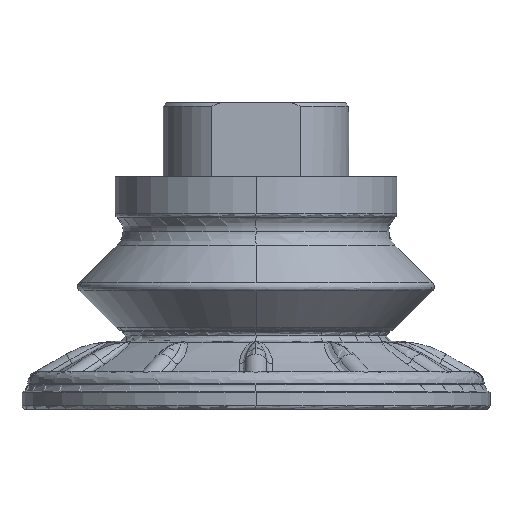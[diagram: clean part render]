
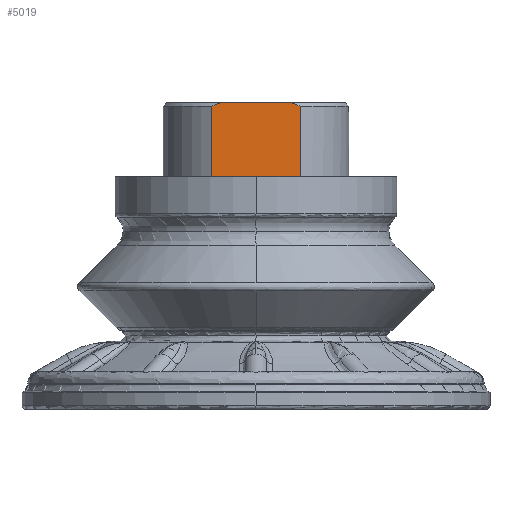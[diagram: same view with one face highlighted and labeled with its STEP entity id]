
A CAD part, front view. The second image highlights one B-rep face of the part: STEP entity #5019.
In plain terms, the highlighted planar face has unit normal (0, -1, 0).
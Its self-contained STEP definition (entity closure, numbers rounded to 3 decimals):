
#277 = EDGE_CURVE ( 'NONE', #3210, #6760, #403, .T. ) ;
#313 = CARTESIAN_POINT ( 'NONE',  ( 4.796, -11., 28. ) ) ;
#315 = CARTESIAN_POINT ( 'NONE',  ( 4.796, -11., 28. ) ) ;
#403 = B_SPLINE_CURVE_WITH_KNOTS ( 'NONE', 3,
 ( #3489, #2475, #5576, #2948 ),
 .UNSPECIFIED., .F., .F.,
 ( 4, 4 ),
 ( 0., 1. ),
 .UNSPECIFIED. ) ;
#1554 = CARTESIAN_POINT ( 'NONE',  ( 5.937, -11., 18. ) ) ;
#1611 = CARTESIAN_POINT ( 'NONE',  ( -5.937, -11., 27.5 ) ) ;
#1785 = CARTESIAN_POINT ( 'NONE',  ( -1.979, -11., 18. ) ) ;
#1999 = CARTESIAN_POINT ( 'NONE',  ( -5.937, -11., 18. ) ) ;
#2198 = CARTESIAN_POINT ( 'NONE',  ( -4.796, -11., 28. ) ) ;
#2475 = CARTESIAN_POINT ( 'NONE',  ( 5.937, -11., 21.167 ) ) ;
#2520 = ORIENTED_EDGE ( 'NONE', *, *, #5186, .T. ) ;
#2557 = CARTESIAN_POINT ( 'NONE',  ( 5.549, -11., 27.684 ) ) ;
#2948 = CARTESIAN_POINT ( 'NONE',  ( 5.937, -11., 27.5 ) ) ;
#3197 = CARTESIAN_POINT ( 'NONE',  ( 5.937, -11., 18. ) ) ;
#3210 = VERTEX_POINT ( 'NONE', #1554 ) ;
#3331 = AXIS2_PLACEMENT_3D ( 'NONE', #3749, #10903, #3480 ) ;
#3480 = DIRECTION ( 'NONE',  ( 0., 0., -1. ) ) ;
#3489 = CARTESIAN_POINT ( 'NONE',  ( 5.937, -11., 18. ) ) ;
#3540 = B_SPLINE_CURVE_WITH_KNOTS ( 'NONE', 3,
 ( #5804, #13083, #3855, #9041 ),
 .UNSPECIFIED., .F., .F.,
 ( 4, 4 ),
 ( 0., 1. ),
 .UNSPECIFIED. ) ;
#3749 = CARTESIAN_POINT ( 'NONE',  ( 0., -11., 23. ) ) ;
#3855 = CARTESIAN_POINT ( 'NONE',  ( 1.599, -11., 28. ) ) ;
#3887 = CARTESIAN_POINT ( 'NONE',  ( -4.796, -11., 28. ) ) ;
#4247 = EDGE_CURVE ( 'NONE', #5142, #6845, #7120, .T. ) ;
#4890 = VERTEX_POINT ( 'NONE', #1999 ) ;
#4963 = CARTESIAN_POINT ( 'NONE',  ( -5.937, -11., 24.333 ) ) ;
#5019 = ADVANCED_FACE ( 'NONE', ( #6726 ), #12709, .T. ) ;
#5142 = VERTEX_POINT ( 'NONE', #3887 ) ;
#5186 = EDGE_CURVE ( 'NONE', #4890, #3210, #10725, .T. ) ;
#5326 = CARTESIAN_POINT ( 'NONE',  ( 5.937, -11., 27.5 ) ) ;
#5576 = CARTESIAN_POINT ( 'NONE',  ( 5.937, -11., 24.333 ) ) ;
#5804 = CARTESIAN_POINT ( 'NONE',  ( -4.796, -11., 28. ) ) ;
#5918 = EDGE_CURVE ( 'NONE', #4890, #6845, #8455, .T. ) ;
#5975 = CARTESIAN_POINT ( 'NONE',  ( -5.937, -11., 21.167 ) ) ;
#6222 = VERTEX_POINT ( 'NONE', #315 ) ;
#6325 = CARTESIAN_POINT ( 'NONE',  ( -5.169, -11., 27.851 ) ) ;
#6687 = ORIENTED_EDGE ( 'NONE', *, *, #11368, .F. ) ;
#6726 = FACE_OUTER_BOUND ( 'NONE', #12087, .T. ) ;
#6760 = VERTEX_POINT ( 'NONE', #5326 ) ;
#6845 = VERTEX_POINT ( 'NONE', #1611 ) ;
#7120 = B_SPLINE_CURVE_WITH_KNOTS ( 'NONE', 3,
 ( #2198, #6325, #7404, #11637 ),
 .UNSPECIFIED., .F., .F.,
 ( 4, 4 ),
 ( 0., 1. ),
 .UNSPECIFIED. ) ;
#7127 = CARTESIAN_POINT ( 'NONE',  ( -5.937, -11., 18. ) ) ;
#7404 = CARTESIAN_POINT ( 'NONE',  ( -5.549, -11., 27.684 ) ) ;
#7742 = ORIENTED_EDGE ( 'NONE', *, *, #5918, .F. ) ;
#8455 = B_SPLINE_CURVE_WITH_KNOTS ( 'NONE', 3,
 ( #7127, #5975, #4963, #10286 ),
 .UNSPECIFIED., .F., .F.,
 ( 4, 4 ),
 ( 0., 1. ),
 .UNSPECIFIED. ) ;
#8538 = CARTESIAN_POINT ( 'NONE',  ( 5.169, -11., 27.851 ) ) ;
#9041 = CARTESIAN_POINT ( 'NONE',  ( 4.796, -11., 28. ) ) ;
#10019 = CARTESIAN_POINT ( 'NONE',  ( 1.979, -11., 18. ) ) ;
#10286 = CARTESIAN_POINT ( 'NONE',  ( -5.937, -11., 27.5 ) ) ;
#10725 = B_SPLINE_CURVE_WITH_KNOTS ( 'NONE', 3,
 ( #11037, #1785, #10019, #3197 ),
 .UNSPECIFIED., .F., .F.,
 ( 4, 4 ),
 ( 0., 1. ),
 .UNSPECIFIED. ) ;
#10903 = DIRECTION ( 'NONE',  ( 0., -1., 0. ) ) ;
#10989 = ORIENTED_EDGE ( 'NONE', *, *, #277, .T. ) ;
#11037 = CARTESIAN_POINT ( 'NONE',  ( -5.937, -11., 18. ) ) ;
#11086 = B_SPLINE_CURVE_WITH_KNOTS ( 'NONE', 3,
 ( #11799, #2557, #8538, #313 ),
 .UNSPECIFIED., .F., .F.,
 ( 4, 4 ),
 ( 0., 1. ),
 .UNSPECIFIED. ) ;
#11368 = EDGE_CURVE ( 'NONE', #5142, #6222, #3540, .T. ) ;
#11637 = CARTESIAN_POINT ( 'NONE',  ( -5.937, -11., 27.5 ) ) ;
#11799 = CARTESIAN_POINT ( 'NONE',  ( 5.937, -11., 27.5 ) ) ;
#12087 = EDGE_LOOP ( 'NONE', ( #2520, #10989, #12446, #6687, #12948, #7742 ) ) ;
#12446 = ORIENTED_EDGE ( 'NONE', *, *, #13045, .T. ) ;
#12709 = PLANE ( 'NONE',  #3331 ) ;
#12948 = ORIENTED_EDGE ( 'NONE', *, *, #4247, .T. ) ;
#13045 = EDGE_CURVE ( 'NONE', #6760, #6222, #11086, .T. ) ;
#13083 = CARTESIAN_POINT ( 'NONE',  ( -1.599, -11., 28. ) ) ;
